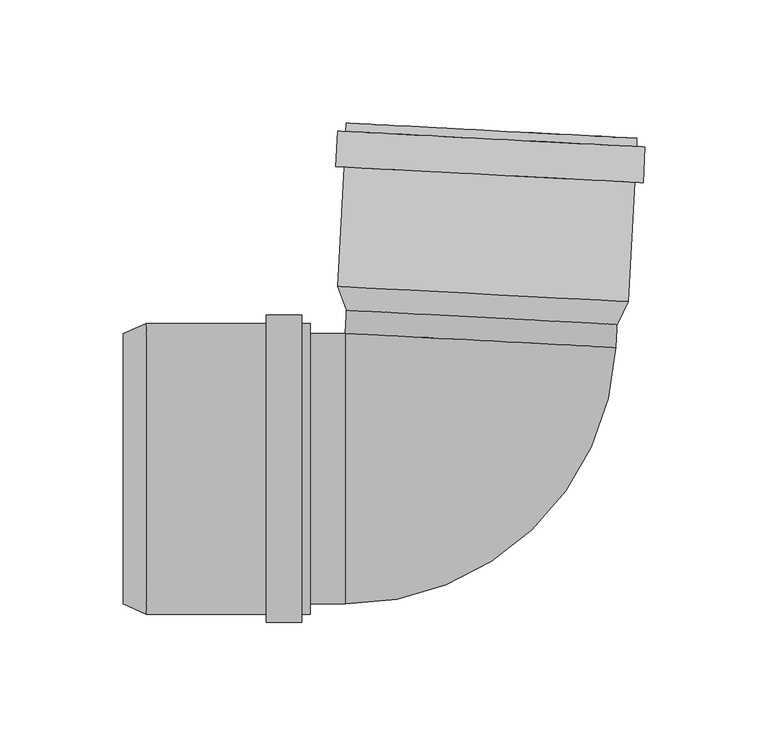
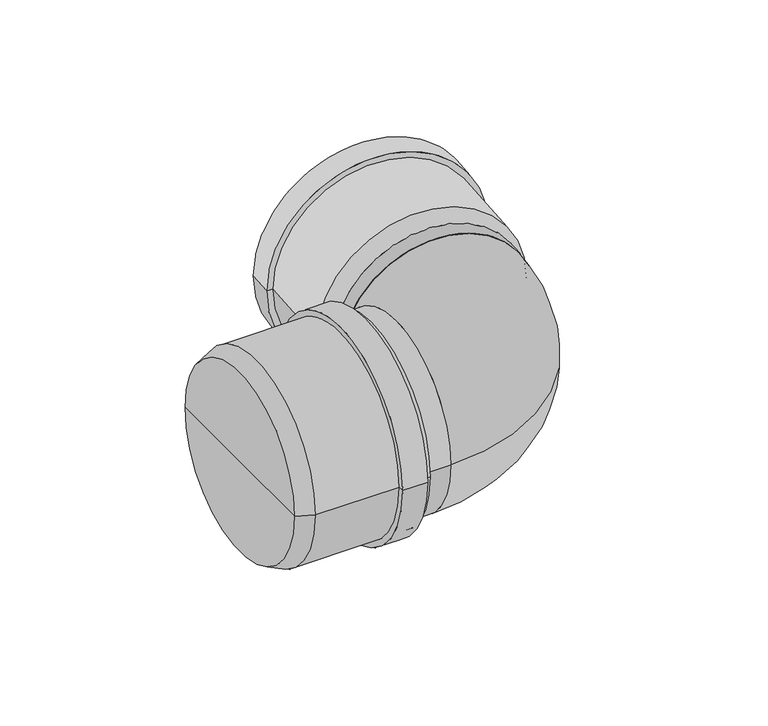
"""IFC4 building model written with IfcOpenShell, lengths in millimetres: pipe fitting geometry, pf_HTB : pf_HTB."""

from ifc_helpers import new_model, si_unit, point, frame, origin, origin_2d, place, context, project, spatial, polyline, circle_curve, ellipse_curve, trimmed, segment, composite_curve, outline, extrude, source, transform, mapped, element, save
from ifc_brep_helpers import plane_surface, cylinder_surface, revolved_surface, advanced_brep


def pipe_fitting_6a555fdf(model_context):
    return source(origin(), model_context, "Body", "SolidModel", [
        advanced_brep(
        [(58.1485193, 58.6371017, 0.0), (-51.7007295, 64.3940569, 0.0), (-55.297919, 74.0956149, 0.0), (62.740092, 67.9095049, 0.0), (3.2238949, 61.5155793, 0.0), (66.2204331, 134.318369, 0.0), (-51.8175779, 140.504479, 0.0), (-47.7231968, 140.2899016, 0.0), (62.126052, 134.5329464, 0.0), (66.0424908, 130.9230286, 0.0), (-51.9955202, 137.1091386, 0.0), (69.4378312, 130.7450863, 0.0), (-55.3908606, 137.2870808, 0.0), (68.6789599, 116.264958, 0.0), (-56.149732, 122.8069526, 0.0), (65.2836195, 116.4429003, 0.0), (-52.7543915, 122.6290103, 0.0), (58.6457109, 68.1240823, 0.0), (-51.2035379, 73.8810375, 0.0), (3.7210865, 71.0025599, 0.0)],
        [
            (0, 1, circle_curve(frame((3.2238949, 61.5155793, 0.0), z_axis=(0.05233595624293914, 0.9986295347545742, 0.0), x_axis=(-0.9986295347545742, 0.05233595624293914, 0.0)), 55.0)),
            (1, 2),
            (2, 3, circle_curve(frame((3.7210865, 71.0025599, 0.0), z_axis=(-0.05233595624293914, -0.9986295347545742, 0.0), x_axis=(-0.9986295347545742, 0.05233595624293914, 0.0)), 59.1)),
            (3, 0),
            (1, 0, circle_curve(frame((3.2238949, 61.5155793, 0.0), z_axis=(0.05233595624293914, 0.9986295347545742, 0.0), x_axis=(-0.9986295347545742, 0.05233595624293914, 0.0)), 55.0)),
            (3, 2, circle_curve(frame((3.7210865, 71.0025599, 0.0), z_axis=(-0.05233595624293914, -0.9986295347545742, 0.0), x_axis=(-0.9986295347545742, 0.05233595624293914, 0.0)), 59.1)),
            (4, 1),
            (0, 4),
            (5, 6, circle_curve(frame((7.2014276, 137.411424, 0.0), z_axis=(0.05233595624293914, 0.9986295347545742, 0.0), x_axis=(-0.9986295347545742, 0.05233595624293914, 0.0)), 59.1)),
            (6, 7),
            (7, 8, circle_curve(frame((7.2014276, 137.411424, 0.0), z_axis=(-0.05233595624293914, -0.9986295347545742, 0.0), x_axis=(-0.9986295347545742, 0.05233595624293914, 0.0)), 55.0)),
            (8, 5),
            (6, 5, circle_curve(frame((7.2014276, 137.411424, 0.0), z_axis=(0.05233595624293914, 0.9986295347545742, 0.0), x_axis=(-0.9986295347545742, 0.05233595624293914, 0.0)), 59.1)),
            (8, 7, circle_curve(frame((7.2014276, 137.411424, 0.0), z_axis=(-0.05233595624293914, -0.9986295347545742, 0.0), x_axis=(-0.9986295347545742, 0.05233595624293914, 0.0)), 55.0)),
            (9, 10, circle_curve(frame((7.0234853, 134.0160836, 0.0), z_axis=(0.05233595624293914, 0.9986295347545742, 0.0), x_axis=(-0.9986295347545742, 0.05233595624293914, 0.0)), 59.1)),
            (10, 6),
            (5, 9),
            (10, 9, circle_curve(frame((7.0234853, 134.0160836, 0.0), z_axis=(0.05233595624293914, 0.9986295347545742, 0.0), x_axis=(-0.9986295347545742, 0.05233595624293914, 0.0)), 59.1)),
            (11, 12, circle_curve(frame((7.0234853, 134.0160836, 0.0), z_axis=(0.05233595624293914, 0.9986295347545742, 0.0), x_axis=(-0.9986295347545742, 0.05233595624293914, 0.0)), 62.5)),
            (12, 10),
            (9, 11),
            (12, 11, circle_curve(frame((7.0234853, 134.0160836, 0.0), z_axis=(0.05233595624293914, 0.9986295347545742, 0.0), x_axis=(-0.9986295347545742, 0.05233595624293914, 0.0)), 62.5)),
            (13, 14, circle_curve(frame((6.264614, 119.5359553, 0.0), z_axis=(0.05233595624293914, 0.9986295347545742, 0.0), x_axis=(-0.9986295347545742, 0.05233595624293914, 0.0)), 62.5)),
            (14, 12),
            (11, 13),
            (14, 13, circle_curve(frame((6.264614, 119.5359553, 0.0), z_axis=(0.05233595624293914, 0.9986295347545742, 0.0), x_axis=(-0.9986295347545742, 0.05233595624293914, 0.0)), 62.5)),
            (15, 16, circle_curve(frame((6.264614, 119.5359553, 0.0), z_axis=(0.05233595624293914, 0.9986295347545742, 0.0), x_axis=(-0.9986295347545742, 0.05233595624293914, 0.0)), 59.1)),
            (16, 14),
            (13, 15),
            (16, 15, circle_curve(frame((6.264614, 119.5359553, 0.0), z_axis=(0.05233595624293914, 0.9986295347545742, 0.0), x_axis=(-0.9986295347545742, 0.05233595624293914, 0.0)), 59.1)),
            (2, 16),
            (15, 3),
            (17, 18, circle_curve(frame((3.7210865, 71.0025599, 0.0), z_axis=(0.05233595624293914, 0.9986295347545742, 0.0), x_axis=(-0.9986295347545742, 0.05233595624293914, 0.0)), 55.0)),
            (18, 19),
            (19, 17),
            (18, 17, circle_curve(frame((3.7210865, 71.0025599, 0.0), z_axis=(0.05233595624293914, 0.9986295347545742, 0.0), x_axis=(-0.9986295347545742, 0.05233595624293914, 0.0)), 55.0)),
            (7, 18),
            (17, 8),
        ],
        [
            revolved_surface(polyline([(-55.297919, 74.0956149, 0.0), (-51.7007295, 64.3940569, 0.0)]), (3.2238949, 61.5155793, 0.0), (-0.05233595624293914, -0.9986295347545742, 0.0)),
            plane_surface(frame((3.2238949, 61.5155793, 0.0), z_axis=(-0.05233595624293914, -0.9986295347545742, 0.0), x_axis=(-0.9986295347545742, 0.05233595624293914, 0.0))),
            plane_surface(frame((7.2014276, 137.411424, 0.0), z_axis=(0.05233595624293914, 0.9986295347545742, 0.0), x_axis=(-0.9986295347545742, 0.05233595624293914, 0.0))),
            cylinder_surface(frame((3.2238949, 61.5155793, 0.0), z_axis=(-0.05233595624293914, -0.9986295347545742, 0.0), x_axis=(-0.9986295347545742, 0.05233595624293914, 0.0)), 59.1),
            plane_surface(frame((7.0234853, 134.0160836, 0.0), z_axis=(0.05233595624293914, 0.9986295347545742, 0.0), x_axis=(-0.9986295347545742, 0.05233595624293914, 0.0))),
            cylinder_surface(frame((3.2238949, 61.5155793, 0.0), z_axis=(-0.05233595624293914, -0.9986295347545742, 0.0), x_axis=(-0.9986295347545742, 0.05233595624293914, 0.0)), 62.5),
            plane_surface(frame((6.264614, 119.5359553, 0.0), z_axis=(-0.05233595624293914, -0.9986295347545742, 0.0), x_axis=(-0.9986295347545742, 0.05233595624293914, 0.0))),
            plane_surface(frame((3.7210865, 71.0025599, 0.0), z_axis=(0.05233595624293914, 0.9986295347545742, 0.0), x_axis=(-0.9986295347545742, 0.05233595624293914, 0.0))),
            revolved_surface(polyline([(-51.20353792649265, 73.88103748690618, 0.0), (-47.72319683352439, 140.28990160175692, 0.0)]), (3.2238949, 61.5155793, 0.0), (-0.05233595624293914, -0.9986295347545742, 0.0)),
        ],
        [
            (0, [[1, 2, 3, 4]]),
            (0, [[5, -4, 6, -2]]),
            (1, [[7, -1, 8]]),
            (1, [[-8, -5, -7]]),
            (2, [[9, 10, 11, 12]]),
            (2, [[13, -12, 14, -10]]),
            (3, [[15, 16, -9, 17]]),
            (3, [[18, -17, -13, -16]]),
            (4, [[19, 20, -15, 21]]),
            (4, [[22, -21, -18, -20]]),
            (5, [[23, 24, -19, 25]]),
            (5, [[26, -25, -22, -24]]),
            (6, [[27, 28, -23, 29]]),
            (6, [[30, -29, -26, -28]]),
            (3, [[-3, 31, -27, 32]]),
            (3, [[-6, -32, -30, -31]]),
            (7, [[33, 34, 35]]),
            (7, [[36, -35, -34]]),
            (8, [[-11, 37, -33, 38]]),
            (8, [[-14, -38, -36, -37]]),
        ],
    ),
        advanced_brep(
        [(-142.5, -55.0, 0.0), (-142.5, 55.0, 0.0), (-133.0, 59.1, 0.0), (-133.0, -59.1, 0.0), (-142.5, 0.0, 0.0), (-66.5, -59.1, 0.0), (-66.5, 59.1, 0.0), (-66.5, 55.0, 0.0), (-66.5, -55.0, 0.0), (-69.9, -59.1, 0.0), (-69.9, 59.1, 0.0), (-69.9, -62.5, 0.0), (-69.9, 62.5, 0.0), (-84.4, -62.5, 0.0), (-84.4, 62.5, 0.0), (-84.4, -59.1, 0.0), (-84.4, 59.1, 0.0), (-133.0, -55.0, 0.0), (-133.0, 55.0, 0.0), (-133.0, 0.0, 0.0)],
        [
            (0, 1, circle_curve(frame((-142.5, 0.0, 0.0), z_axis=(1.0, 0.0, 0.0), x_axis=(0.0, 1.0, 0.0)), 55.0)),
            (1, 2),
            (2, 3, circle_curve(frame((-133.0, 0.0, 0.0), z_axis=(-1.0, 0.0, 0.0), x_axis=(0.0, 1.0, 0.0)), 59.1)),
            (3, 0),
            (1, 0, circle_curve(frame((-142.5, 0.0, 0.0), z_axis=(1.0, 0.0, 0.0), x_axis=(0.0, 1.0, 0.0)), 55.0)),
            (3, 2, circle_curve(frame((-133.0, 0.0, 0.0), z_axis=(-1.0, 0.0, 0.0), x_axis=(0.0, 1.0, 0.0)), 59.1)),
            (4, 1),
            (0, 4),
            (5, 6, circle_curve(frame((-66.5, 0.0, 0.0), z_axis=(1.0, 0.0, 0.0), x_axis=(0.0, 1.0, 0.0)), 59.1)),
            (6, 7),
            (7, 8, circle_curve(frame((-66.5, 0.0, 0.0), z_axis=(-1.0, 0.0, 0.0), x_axis=(0.0, 1.0, 0.0)), 55.0)),
            (8, 5),
            (6, 5, circle_curve(frame((-66.5, 0.0, 0.0), z_axis=(1.0, 0.0, 0.0), x_axis=(0.0, 1.0, 0.0)), 59.1)),
            (8, 7, circle_curve(frame((-66.5, 0.0, 0.0), z_axis=(-1.0, 0.0, 0.0), x_axis=(0.0, 1.0, 0.0)), 55.0)),
            (9, 10, circle_curve(frame((-69.9, 0.0, 0.0), z_axis=(1.0, 0.0, 0.0), x_axis=(0.0, 1.0, 0.0)), 59.1)),
            (10, 6),
            (5, 9),
            (10, 9, circle_curve(frame((-69.9, 0.0, 0.0), z_axis=(1.0, 0.0, 0.0), x_axis=(0.0, 1.0, 0.0)), 59.1)),
            (11, 12, circle_curve(frame((-69.9, 0.0, 0.0), z_axis=(1.0, 0.0, 0.0), x_axis=(0.0, 1.0, 0.0)), 62.5)),
            (12, 10),
            (9, 11),
            (12, 11, circle_curve(frame((-69.9, 0.0, 0.0), z_axis=(1.0, 0.0, 0.0), x_axis=(0.0, 1.0, 0.0)), 62.5)),
            (13, 14, circle_curve(frame((-84.4, 0.0, 0.0), z_axis=(1.0, 0.0, 0.0), x_axis=(0.0, 1.0, 0.0)), 62.5)),
            (14, 12),
            (11, 13),
            (14, 13, circle_curve(frame((-84.4, 0.0, 0.0), z_axis=(1.0, 0.0, 0.0), x_axis=(0.0, 1.0, 0.0)), 62.5)),
            (15, 16, circle_curve(frame((-84.4, 0.0, 0.0), z_axis=(1.0, 0.0, 0.0), x_axis=(0.0, 1.0, 0.0)), 59.1)),
            (16, 14),
            (13, 15),
            (16, 15, circle_curve(frame((-84.4, 0.0, 0.0), z_axis=(1.0, 0.0, 0.0), x_axis=(0.0, 1.0, 0.0)), 59.1)),
            (2, 16),
            (15, 3),
            (17, 18, circle_curve(frame((-133.0, 0.0, 0.0), z_axis=(1.0, 0.0, 0.0), x_axis=(0.0, 1.0, 0.0)), 55.0)),
            (18, 19),
            (19, 17),
            (18, 17, circle_curve(frame((-133.0, 0.0, 0.0), z_axis=(1.0, 0.0, 0.0), x_axis=(0.0, 1.0, 0.0)), 55.0)),
            (7, 18),
            (17, 8),
        ],
        [
            revolved_surface(polyline([(-133.0, 59.1, 0.0), (-142.5, 55.0, 0.0)]), (-142.5, 0.0, 0.0), (-1.0, 0.0, 0.0)),
            plane_surface(frame((-142.5, 0.0, 0.0), z_axis=(-1.0, 0.0, 0.0), x_axis=(0.0, 1.0, 0.0))),
            plane_surface(frame((-66.5, 0.0, 0.0), z_axis=(1.0, 0.0, 0.0), x_axis=(0.0, 1.0, 0.0))),
            cylinder_surface(frame((-142.5, 0.0, 0.0), z_axis=(-1.0, 0.0, 0.0), x_axis=(0.0, 1.0, 0.0)), 59.1),
            plane_surface(frame((-69.9, 0.0, 0.0), z_axis=(1.0, 0.0, 0.0), x_axis=(0.0, 1.0, 0.0))),
            cylinder_surface(frame((-142.5, 0.0, 0.0), z_axis=(-1.0, 0.0, 0.0), x_axis=(0.0, 1.0, 0.0)), 62.5),
            plane_surface(frame((-84.4, 0.0, 0.0), z_axis=(-1.0, 0.0, 0.0), x_axis=(0.0, 1.0, 0.0))),
            plane_surface(frame((-133.0, 0.0, 0.0), z_axis=(1.0, 0.0, 0.0), x_axis=(0.0, 1.0, 0.0))),
            revolved_surface(polyline([(-133.0, 55.0, 0.0), (-66.5, 55.0, 0.0)]), (-142.5, 0.0, 0.0), (-1.0, 0.0, 0.0)),
        ],
        [
            (0, [[1, 2, 3, 4]]),
            (0, [[5, -4, 6, -2]]),
            (1, [[7, -1, 8]]),
            (1, [[-8, -5, -7]]),
            (2, [[9, 10, 11, 12]]),
            (2, [[13, -12, 14, -10]]),
            (3, [[15, 16, -9, 17]]),
            (3, [[18, -17, -13, -16]]),
            (4, [[19, 20, -15, 21]]),
            (4, [[22, -21, -18, -20]]),
            (5, [[23, 24, -19, 25]]),
            (5, [[26, -25, -22, -24]]),
            (6, [[27, 28, -23, 29]]),
            (6, [[30, -29, -26, -28]]),
            (3, [[-3, 31, -27, 32]]),
            (3, [[-6, -32, -30, -31]]),
            (7, [[33, 34, 35]]),
            (7, [[36, -35, -34]]),
            (8, [[-11, 37, -33, 38]]),
            (8, [[-14, -38, -36, -37]]),
        ],
    ),
        extrude(outline(composite_curve([segment(trimmed(circle_curve(origin_2d(), 55.0), [point((0.0, -55.0))], [point((0.0, 55.0000001))], False, "CARTESIAN"), True, "CONTINUOUS"), segment(trimmed(circle_curve(origin_2d(), 55.0), [point((0.0, 55.0000001))], [point((0.0, -55.0))], False, "CARTESIAN"), True, "CONTINUOUS")], self_intersect=False)), frame((2.7315732, 52.1215224, 0.0), z_axis=(0.05233595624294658, 0.9986295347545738, 0.0), x_axis=(0.0, 0.0, 1.0)), (0.0, 0.0, 1.0), 18.9069488),
        extrude(outline(composite_curve([segment(trimmed(circle_curve(origin_2d(), 55.0), [point((-55.0, 0.0))], [point((55.0, 0.0))], False, "CARTESIAN"), True, "CONTINUOUS"), segment(trimmed(circle_curve(origin_2d(), 55.0), [point((55.0, 0.0))], [point((-55.0, 0.0))], False, "CARTESIAN"), True, "CONTINUOUS")], self_intersect=False)), frame((-133.0, 0.0, 0.0), z_axis=(1.0, 0.0, 0.0), x_axis=(0.0, 1.0, 0.0)), (0.0, 0.0, 1.0), 80.8069488),
        advanced_brep(
        [(-52.1930512, -55.0, 0.0), (-52.1930512, 55.0, 0.0), (57.6561977, 49.2430448, 0.0)],
        [
            (0, 1, circle_curve(frame((-52.1930512, 0.0, 0.0), z_axis=(-1.0, 0.0, 0.0), x_axis=(0.0, 1.0, 0.0)), 55.0)),
            (1, 0, circle_curve(frame((-52.1930512, 0.0, 0.0), z_axis=(-1.0, 0.0, 0.0), x_axis=(0.0, 1.0, 0.0)), 55.0)),
            (2, 1, circle_curve(frame((2.7315732, 52.1215224, 0.0), z_axis=(0.05233595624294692, 0.9986295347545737, 0.0), x_axis=(-0.9986295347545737, 0.05233595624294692, 0.0)), 55.0)),
            (1, 2, circle_curve(frame((2.7315732, 52.1215224, 0.0), z_axis=(0.05233595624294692, 0.9986295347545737, 0.0), x_axis=(-0.9986295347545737, 0.05233595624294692, 0.0)), 55.0)),
            (2, 0, circle_curve(frame((-52.1930512, 55.0, 0.0), z_axis=(0.0, 0.0, -1.0), x_axis=(0.0, -1.0, 0.0)), 110.0)),
        ],
        [
            plane_surface(frame((-52.1930512, 55.0, -14.8), z_axis=(-1.0, 0.0, 0.0), x_axis=(0.0, -1.0, 0.0))),
            plane_surface(frame((-52.1930512, 55.0, -14.8), z_axis=(0.052335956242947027, 0.9986295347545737, 0.0), x_axis=(0.9986295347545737, -0.052335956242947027, 0.0))),
            revolved_surface(trimmed(ellipse_curve(frame((-52.1930512, 0.0, 0.0), z_axis=(1.0, 0.0, 0.0), x_axis=(0.0, 1.0, 0.0)), 55.0, 55.0), [point((-52.1930512, -55.0, 0.0))], [point((-52.1930512, 55.0, 0.0))], True, "CARTESIAN"), (-52.1930512, 55.0, -14.8), (0.0, 0.0, -1.0)),
            revolved_surface(trimmed(ellipse_curve(frame((-52.1930512, 0.0, 0.0), z_axis=(1.0, 0.0, 0.0), x_axis=(0.0, 1.0, 0.0)), 55.0, 55.0), [point((-52.1930512, 55.0, 0.0))], [point((-52.1930512, -55.0, 0.0))], True, "CARTESIAN"), (-52.1930512, 55.0, -14.8), (0.0, 0.0, -1.0)),
        ],
        [
            (0, [[1, 2]]),
            (1, [[3, 4]]),
            (2, [[5, -2, -3]]),
            (3, [[-1, -5, -4]]),
        ],
    ),
    ])


if __name__ == "__main__":
    model = new_model("IFC4")
    model_context = context("Model", 3, world=origin())
    ifc_project = project(units=[si_unit("LENGTHUNIT", "METRE", prefix="MILLI")], contexts=[model_context])
    site = spatial("IfcSite", under=ifc_project)
    building = spatial("IfcBuilding", under=site)
    placement = place(None, origin())
    pipe_fitting_shape = pipe_fitting_6a555fdf(model_context)
    element("IfcPipeFitting", 1, ObjectType="pf_HTB : pf_HTB", at=placement, inside=building, context=model_context, shape_type="MappedRepresentation", body=[
        mapped(pipe_fitting_shape, transform((0.0, 0.0, 0.0), x_axis=(1.0, 0.0, 0.0), y_axis=(0.0, 1.0, 0.0), z_axis=(0.0, 0.0, 1.0))),
    ])
    save(model, "model.ifc")
